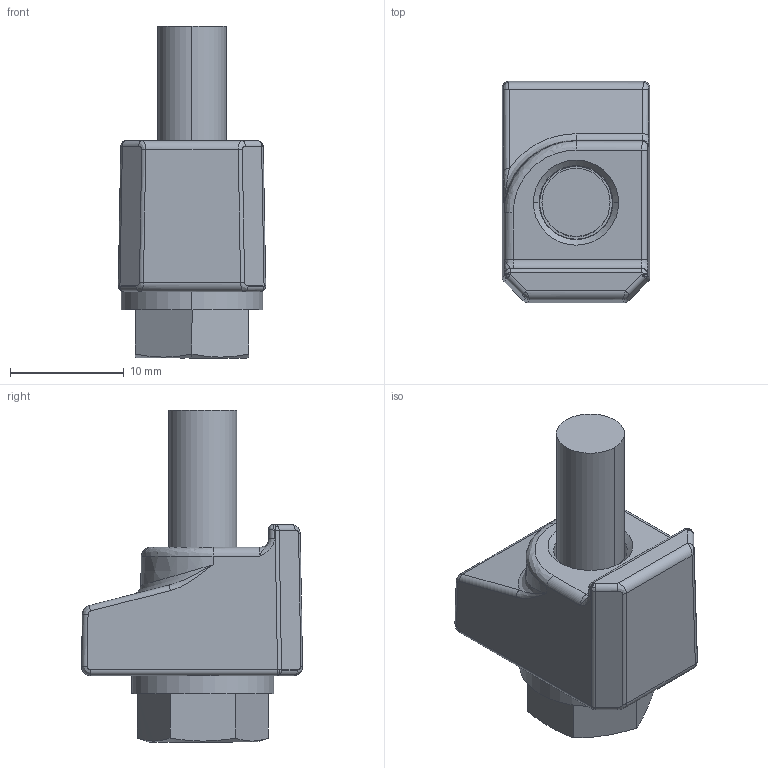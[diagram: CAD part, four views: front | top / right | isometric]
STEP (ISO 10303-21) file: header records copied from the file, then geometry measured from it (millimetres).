
FILE_DESCRIPTION (( 'STEP AP203' ), '1' );
FILE_NAME ('KF縐諶等晚.step', '2026-06-02T14:11:19', ( '' ), ( '' ), 'SwSTEP 2.0', 'SolidWorks 2025', '' );
FILE_SCHEMA (( 'CONFIG_CONTROL_DESIGN' ));
Length unit declared in the file: millimetre
Products named in the file (1): KF卡扣单边
Bounding box: 12.98 x 19.47 x 29.24 mm (x, y, z)
Volume: 3306.5 mm3; surface area: 2334.9 mm2
Topology: 3 solids, 3 shells, 98 faces, 221 edges, 122 vertices
Faces by surface type: cylinder 42, bspline 26, plane 23, cone 7
Entity records: 4162 total; most frequent: CARTESIAN_POINT 2097, ORIENTED_EDGE 426, DIRECTION 394, EDGE_CURVE 213, AXIS2_PLACEMENT_3D 152, VERTEX_POINT 122, EDGE_LOOP 103, FACE_OUTER_BOUND 98
